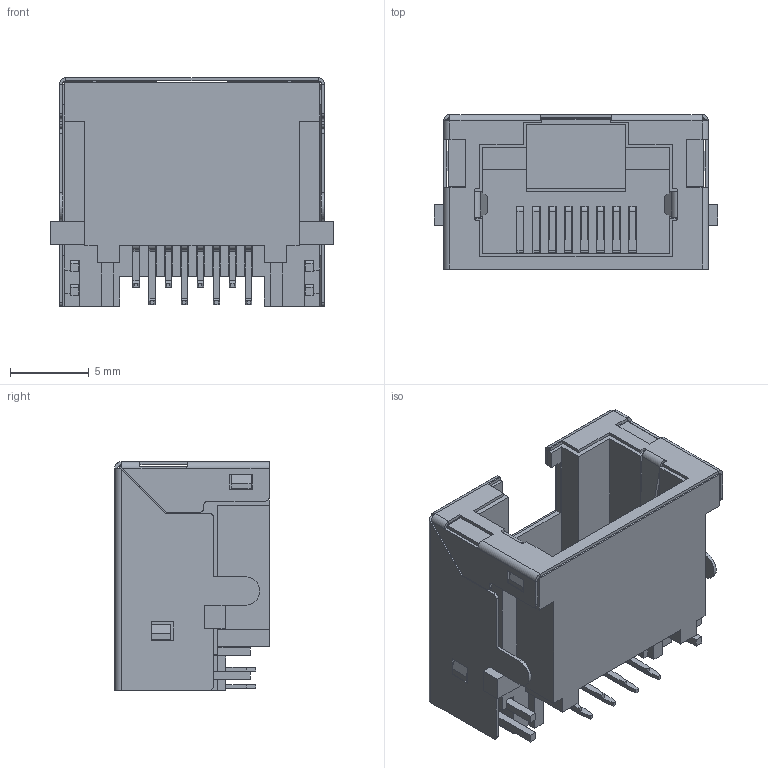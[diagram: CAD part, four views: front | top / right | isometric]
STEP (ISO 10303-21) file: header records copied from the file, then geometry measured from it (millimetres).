
FILE_DESCRIPTION((''),'2;1');
FILE_NAME('DGKYDCB701188CB1W6SB1186_ASM','2020-01-11T11:23:11',('Administrator'),(''),'CREO PARAMETRIC BY PTC INC, 2018400','CREO PARAMETRIC BY PTC INC, 2018400','');
FILE_SCHEMA(('CONFIG_CONTROL_DESIGN'));
Length unit declared in the file: millimetre
Products named in the file (7): DGKYDCB701188CB1W60001; LED1; LED2; 100; 200; DGKYDCB701188CB1W60002; DGKYDCB701188CB1W6SB1186_ASM
Assembly tree (12 placements, depth 2):
  DGKYDCB701188CB1W6SB1186_ASM
    DGKYDCB701188CB1W60001
    LED1
    LED2
    100  x4
    200  x4
    DGKYDCB701188CB1W60002
Bounding box: 18 x 9.8 x 14.5 mm (x, y, z)
Volume: 919.3 mm3; surface area: 3225.5 mm2
Topology: 12 solids, 12 shells, 703 faces, 1986 edges, 1288 vertices
Faces by surface type: plane 543, cylinder 148, bspline 12
Entity records: 16974 total; most frequent: CARTESIAN_POINT 3468, ORIENTED_EDGE 2892, DIRECTION 2602, EDGE_CURVE 1446, VECTOR 1278, LINE 1278, VERTEX_POINT 928, AXIS2_PLACEMENT_3D 662
